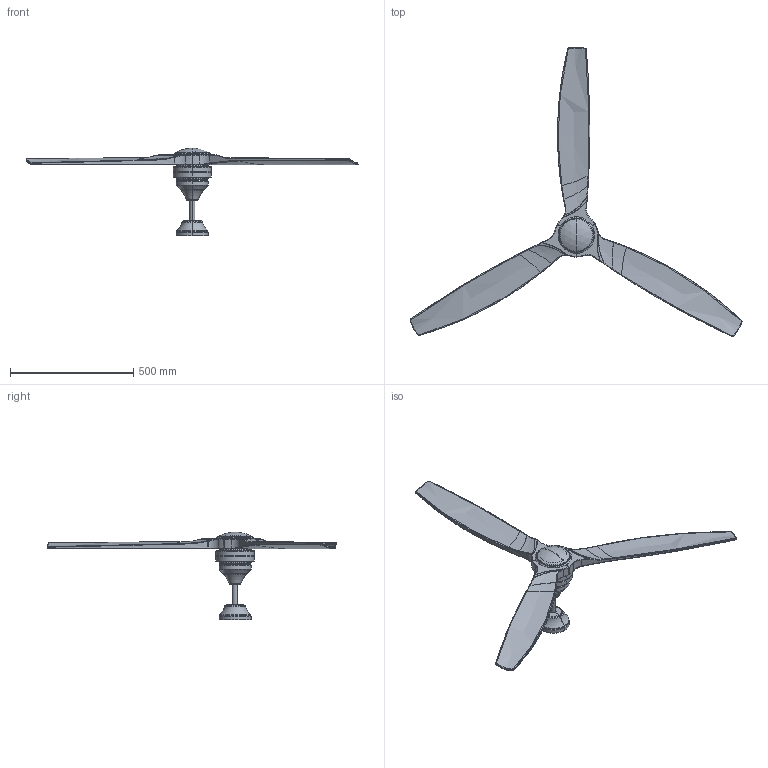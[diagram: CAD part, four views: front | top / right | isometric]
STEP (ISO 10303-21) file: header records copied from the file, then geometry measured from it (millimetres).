
FILE_DESCRIPTION(/* description */ (''),/* implementation_level */ '2;1');
FILE_NAME(/* name */ 'C:\Users\Franco Sartori E\Documents\FARO\DUPLICADO\Modelos\01_Digitalizados\2_Pendiente 2D\2_ALO\03_Publicación\33727.stp',/* time_stamp */ '2020-07-29T12:17:30+02:00',/* author */ ('Franco Sartori E'),/* organization */ (''),/* preprocessor_version */ 'ST-DEVELOPER v18',/* originating_system */ 'AutoCAD Mechanical',/* authorisation */ '');
FILE_SCHEMA (('AUTOMOTIVE_DESIGN { 1 0 10303 214 3 1 1 }'));
Products named in the file (2): Product; 33719_33729_ALO - ALO-444118-_3D_
Assembly tree (1 placements, depth 2):
  Product
    33719_33729_ALO - ALO-444118-_3D_
Bounding box: 1346.91 x 1172.88 x 356.66 mm (x, y, z)
Volume: 2079861.9 mm3; surface area: 1509643.5 mm2
Topology: 178 solids, 228 shells, 1552 faces, 3367 edges, 2192 vertices
Faces by surface type: bspline 578, plane 498, cylinder 338, torus 120, cone 14, sphere 4
Entity records: 73369 total; most frequent: CARTESIAN_POINT 42938, ORIENTED_EDGE 6421, DIRECTION 4891, EDGE_CURVE 3367, VERTEX_POINT 2192, AXIS2_PLACEMENT_3D 1718, EDGE_LOOP 1592, FACE_OUTER_BOUND 1552
